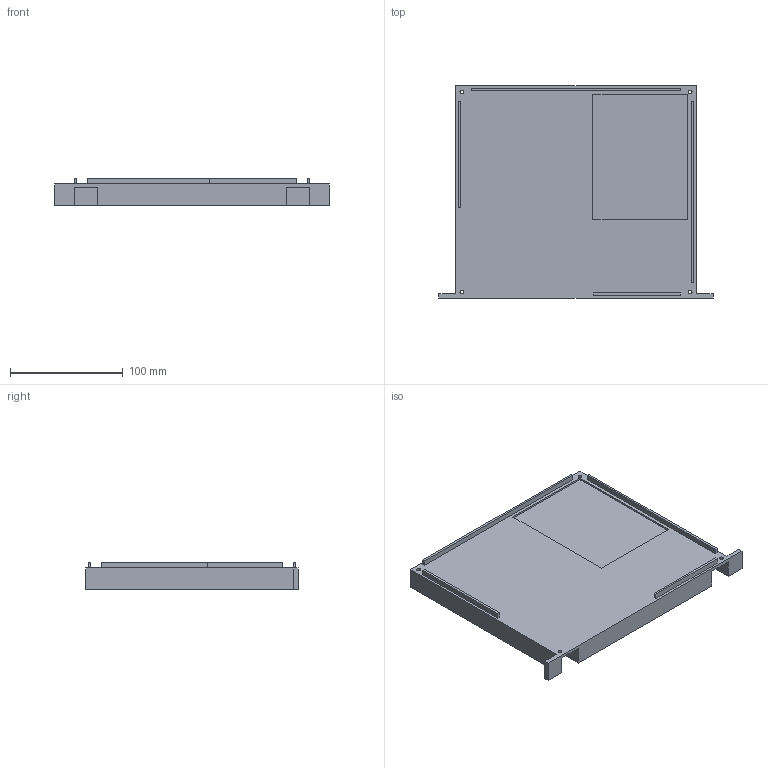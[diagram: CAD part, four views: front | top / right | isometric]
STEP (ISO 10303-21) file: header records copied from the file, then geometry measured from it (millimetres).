
FILE_DESCRIPTION((''),'2;1');
FILE_NAME('00','2026-07-21T10:43:39',('Admin'),(''),'CREO PARAMETRIC BY PTC INC, 2025183','CREO PARAMETRIC BY PTC INC, 2025183','');
FILE_SCHEMA(('CONFIG_CONTROL_DESIGN'));
Length unit declared in the file: millimetre
Products named in the file (1): 00
Bounding box: 243 x 188 x 23.8 mm (x, y, z)
Volume: 189300.7 mm3; surface area: 159905.1 mm2
Topology: 1 solids, 1 shells, 86 faces, 216 edges, 144 vertices
Faces by surface type: plane 78, cylinder 8
Entity records: 2590 total; most frequent: CARTESIAN_POINT 446, ORIENTED_EDGE 432, DIRECTION 404, EDGE_CURVE 216, VECTOR 200, LINE 200, VERTEX_POINT 144, EDGE_LOOP 106
